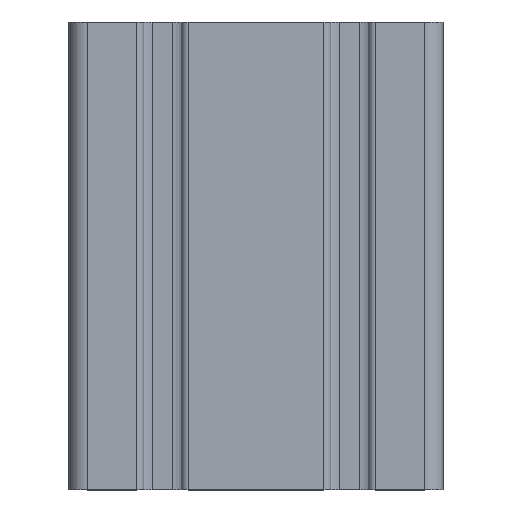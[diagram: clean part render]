
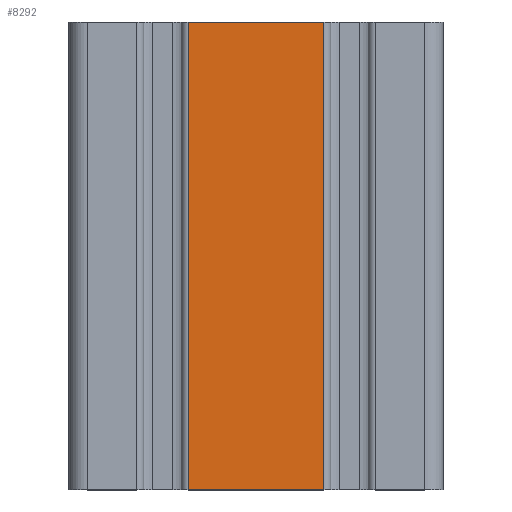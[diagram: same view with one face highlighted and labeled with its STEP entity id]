
A CAD part, top view. The second image highlights one B-rep face of the part: STEP entity #8292.
In plain terms, the highlighted planar face has unit normal (0, 0, 1).
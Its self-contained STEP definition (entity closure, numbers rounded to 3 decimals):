
#620 = VERTEX_POINT ( 'NONE', #5138 ) ;
#695 = ORIENTED_EDGE ( 'NONE', *, *, #7479, .T. ) ;
#763 = ORIENTED_EDGE ( 'NONE', *, *, #9088, .F. ) ;
#919 = DIRECTION ( 'NONE',  ( 1., 0., 0. ) ) ;
#926 = VERTEX_POINT ( 'NONE', #6197 ) ;
#934 = DIRECTION ( 'NONE',  ( -1., 0., 0. ) ) ;
#1407 = ORIENTED_EDGE ( 'NONE', *, *, #7562, .T. ) ;
#1543 = CARTESIAN_POINT ( 'NONE',  ( -14.5, 50., 20. ) ) ;
#1767 = VECTOR ( 'NONE', #919, 1000. ) ;
#1770 = PLANE ( 'NONE',  #4774 ) ;
#1919 = VECTOR ( 'NONE', #2841, 1000. ) ;
#2428 = VECTOR ( 'NONE', #8013, 1000. ) ;
#2841 = DIRECTION ( 'NONE',  ( 0., -1., 0. ) ) ;
#3156 = DIRECTION ( 'NONE',  ( 0., 0., -1. ) ) ;
#3255 = CARTESIAN_POINT ( 'NONE',  ( -14.5, 50., 20. ) ) ;
#3477 = CARTESIAN_POINT ( 'NONE',  ( 14.5, 50., 20. ) ) ;
#3871 = DIRECTION ( 'NONE',  ( 1., 0., 0. ) ) ;
#4007 = VECTOR ( 'NONE', #3871, 1000. ) ;
#4424 = CARTESIAN_POINT ( 'NONE',  ( -14.5, 50., 20. ) ) ;
#4433 = ORIENTED_EDGE ( 'NONE', *, *, #9353, .F. ) ;
#4621 = CARTESIAN_POINT ( 'NONE',  ( -14.5, 50., 20. ) ) ;
#4774 = AXIS2_PLACEMENT_3D ( 'NONE', #3255, #3156, #934 ) ;
#5138 = CARTESIAN_POINT ( 'NONE',  ( 14.5, 50., 20. ) ) ;
#5346 = CARTESIAN_POINT ( 'NONE',  ( -14.5, -50., 20. ) ) ;
#6189 = LINE ( 'NONE', #1543, #4007 ) ;
#6197 = CARTESIAN_POINT ( 'NONE',  ( -14.5, -50., 20. ) ) ;
#6307 = CARTESIAN_POINT ( 'NONE',  ( 14.5, -50., 20. ) ) ;
#7221 = LINE ( 'NONE', #3477, #2428 ) ;
#7380 = LINE ( 'NONE', #4424, #1919 ) ;
#7479 = EDGE_CURVE ( 'NONE', #9011, #926, #7380, .T. ) ;
#7562 = EDGE_CURVE ( 'NONE', #926, #8289, #9202, .T. ) ;
#7696 = FACE_OUTER_BOUND ( 'NONE', #8260, .T. ) ;
#8013 = DIRECTION ( 'NONE',  ( 0., -1., 0. ) ) ;
#8260 = EDGE_LOOP ( 'NONE', ( #1407, #763, #4433, #695 ) ) ;
#8289 = VERTEX_POINT ( 'NONE', #6307 ) ;
#8292 = ADVANCED_FACE ( 'NONE', ( #7696 ), #1770, .F. ) ;
#9011 = VERTEX_POINT ( 'NONE', #4621 ) ;
#9088 = EDGE_CURVE ( 'NONE', #620, #8289, #7221, .T. ) ;
#9202 = LINE ( 'NONE', #5346, #1767 ) ;
#9353 = EDGE_CURVE ( 'NONE', #9011, #620, #6189, .T. ) ;
